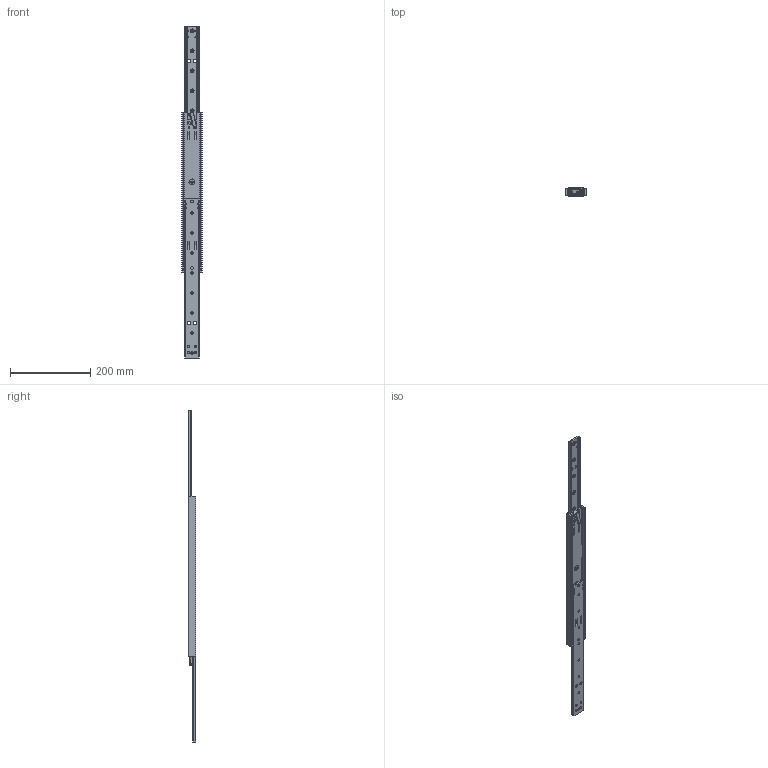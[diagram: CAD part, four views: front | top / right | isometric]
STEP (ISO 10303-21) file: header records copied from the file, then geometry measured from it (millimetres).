
FILE_DESCRIPTION (( 'STEP AP214' ), '1' );
FILE_NAME ('220-400-open.STEP', '2024-08-20T10:42:56', ( '' ), ( '' ), 'SwSTEP 2.0', 'SolidWorks 2024', '' );
FILE_SCHEMA (( 'AUTOMOTIVE_DESIGN' ));
Length unit declared in the file: millimetre
Products named in the file (12): 220-400-open; 61_12282_5.STEP_Part59; 61_12278_08_1.STEP_Part65; 400_000_004_5.STEP_Part64; 61_13331_Pin Fitted_5.STEP_Part58; 61_12274_5.STEP_Part61; 61_12280_06_Beam Assembled - Stop Raises _1.STEP_Part57; 370_002_070_5.STEP_Part62; 61_12276_5.STEP_Part66; 61_12279_06_1.STEP_Part56; 301_000_008_Fitted_5.STEP_Part60; 61_12284_06_open.STEP_Assem11
Assembly tree (26 placements, depth 3):
  220-400-open
    61_12284_06_open.STEP_Assem11
      61_12279_06_1.STEP_Part56
      61_12280_06_Beam Assembled - Stop Raises _1.STEP_Part57  x2
      61_13331_Pin Fitted_5.STEP_Part58  x4
      61_12282_5.STEP_Part59
      301_000_008_Fitted_5.STEP_Part60  x2
      61_12274_5.STEP_Part61
      370_002_070_5.STEP_Part62
      400_000_004_5.STEP_Part64  x8
      61_12278_08_1.STEP_Part65  x4
      61_12276_5.STEP_Part66
Bounding box: 50.7 x 19.75 x 830 mm (x, y, z)
Volume: 231280.8 mm3; surface area: 160610.4 mm2
Topology: 25 solids, 25 shells, 1253 faces, 3237 edges, 2012 vertices
Faces by surface type: cylinder 546, plane 279, sphere 225, cone 80, torus 77, bspline 46
Entity records: 28472 total; most frequent: CARTESIAN_POINT 8740, DIRECTION 4244, ORIENTED_EDGE 4010, EDGE_CURVE 2005, AXIS2_PLACEMENT_3D 1698, VERTEX_POINT 1239, CIRCLE 927, EDGE_LOOP 896
